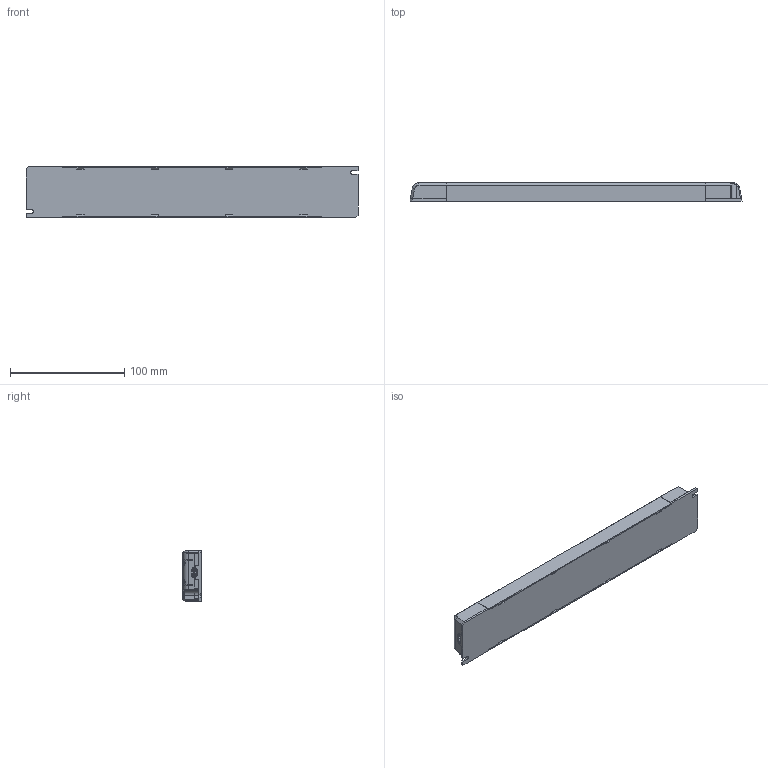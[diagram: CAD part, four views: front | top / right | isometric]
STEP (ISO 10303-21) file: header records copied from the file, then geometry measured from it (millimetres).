
FILE_DESCRIPTION (( 'STEP AP203' ), '1' );
FILE_NAME ('Trafo 60W 12VDC.STEP', '2021-02-08T10:48:42', ( '' ), ( '' ), 'SwSTEP 2.0', 'SolidWorks 2018', '' );
FILE_SCHEMA (( 'CONFIG_CONTROL_DESIGN' ));
Length unit declared in the file: millimetre
Products named in the file (14): Trafo 60W 12VDC.STEP; PCB_ASM.stp.STEP; 500-2.stp.STEP; ED-SS_II_60W12V_SHANGGAI.stp.STEP; Trafo 60W 12VDC; ED-SS_60W12V_XIAGAI.stp.STEP; X42_ASM.stp.STEP; BOARD.stp.STEP; X41_ASM.stp.STEP; 5991383 .stp.STEP; 500-3.stp.STEP; ED-SS_60W12V_V02_ASM.stp.STEP; ED-SS_II_15W12V_DUANGAI.stp.STEP; X11_ASM.stp.STEP
Assembly tree (15 placements, depth 7):
  Trafo 60W 12VDC
    Trafo 60W 12VDC.STEP
      5991383 .stp.STEP
        ED-SS_60W12V_V02_ASM.stp.STEP
          PCB_ASM.stp.STEP
            X11_ASM.stp.STEP
              500-3.stp.STEP
            X42_ASM.stp.STEP
              500-2.stp.STEP
            X41_ASM.stp.STEP
              500-2.stp.STEP
            BOARD.stp.STEP
        ED-SS_60W12V_XIAGAI.stp.STEP
        ED-SS_II_60W12V_SHANGGAI.stp.STEP
        ED-SS_II_15W12V_DUANGAI.stp.STEP  x2
Bounding box: 290 x 16 x 44.5 mm (x, y, z)
Volume: 52673.7 mm3; surface area: 106545.2 mm2
Topology: 8 solids, 8 shells, 1318 faces, 3751 edges, 2454 vertices
Faces by surface type: plane 869, cylinder 395, bspline 34, cone 12, torus 8
Entity records: 39887 total; most frequent: CARTESIAN_POINT 8332, ORIENTED_EDGE 6374, DIRECTION 6083, EDGE_CURVE 3187, VECTOR 2343, LINE 2343, VERTEX_POINT 2091, AXIS2_PLACEMENT_3D 1870
